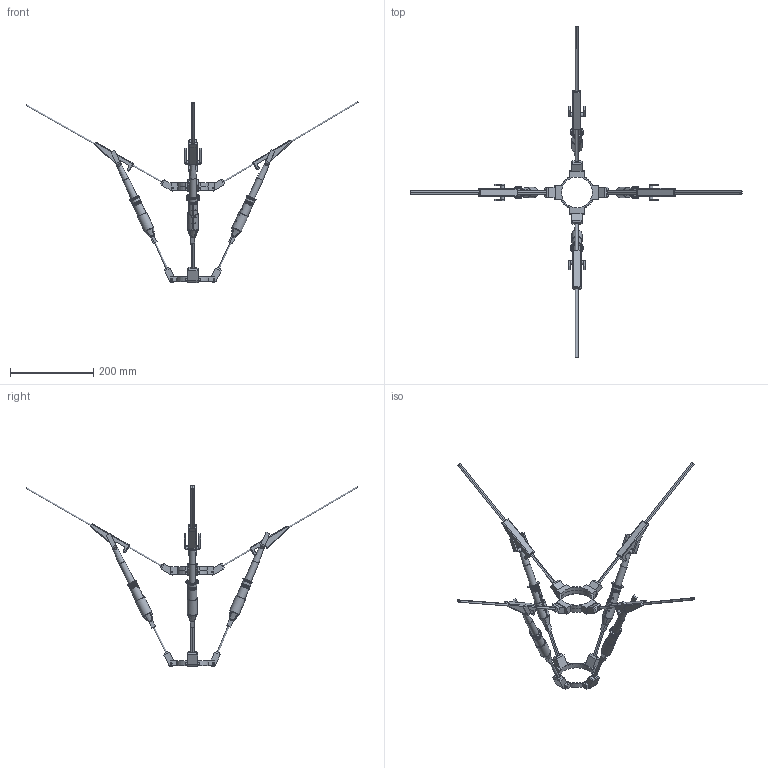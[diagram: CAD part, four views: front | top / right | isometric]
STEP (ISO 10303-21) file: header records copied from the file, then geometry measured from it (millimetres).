
FILE_DESCRIPTION(/* description */ ('STEP AP242 Edition 2','CAx-IF Rec.Pracs.---Representation and Presentation of Product Manufacturing Information (PMI)---4.0---2014-10-13','CAx-IF Rec.Pracs.---3D Tessellated Geometry---0.4---2014-09-14','2;1','CAx-IF Rec.Pracs.---User Defined Attributes---1.5---2016-08-15'),/* implementation_level */ '2;1');
FILE_NAME(/* name */ '695aff44d13f1a02338895d7',/* time_stamp */ '2026-01-05T00:01:09Z',/* author */ (''),/* organization */ (''),/* preprocessor_version */ 'ST-DEVELOPER v20',/* originating_system */ 'ONSHAPE BY PTC INC, 1.208',/* authorisation */ ' ');
FILE_SCHEMA (('AP242_MANAGED_MODEL_BASED_3D_ENGINEERING_MIM_LF { 1 0 10303 442 3 1 4 }'));
Length unit declared in the file: metre
Products named in the file (11): Landing Leg asembly; Part 1; Rubber tampon_20ml; Syringe_cylinder_20ml; Syringe_piston_20ml
Assembly tree (46 placements, depth 2):
  Landing Leg asembly
    Part 1  x8
    Part 1  x4
    Rubber tampon_20ml  x4
    Part 1  x8
    Part 1  x8
    Syringe_cylinder_20ml  x4
    Part 1  x4
    Syringe_piston_20ml  x4
    Part 1
    Part 1
Bounding box: 798.07 x 797.92 x 435.32 mm (x, y, z)
Volume: 447890.7 mm3; surface area: 287329.5 mm2
Topology: 46 solids, 46 shells, 2406 faces, 6432 edges, 4192 vertices
Faces by surface type: plane 1594, cylinder 416, bspline 308, cone 72, torus 16
Full cylindrical faces by diameter (mm): 1.9 x4, 3 x24, 4 x48, 4.1 x4, 10 x4, 14 x8, 16 x4, 18.4 x4, 19 x4, 19.2 x4, 19.4 x12, 21.4 x4, 21.5 x4, 25 x4, 74 x1, 75.6 x1, 80 x2
Entity records: 38057 total; most frequent: CARTESIAN_POINT 19797, ORIENTED_EDGE 3378, DIRECTION 3084, EDGE_CURVE 1689, VERTEX_POINT 1141, AXIS2_PLACEMENT_3D 1055, LINE 974, VECTOR 974
